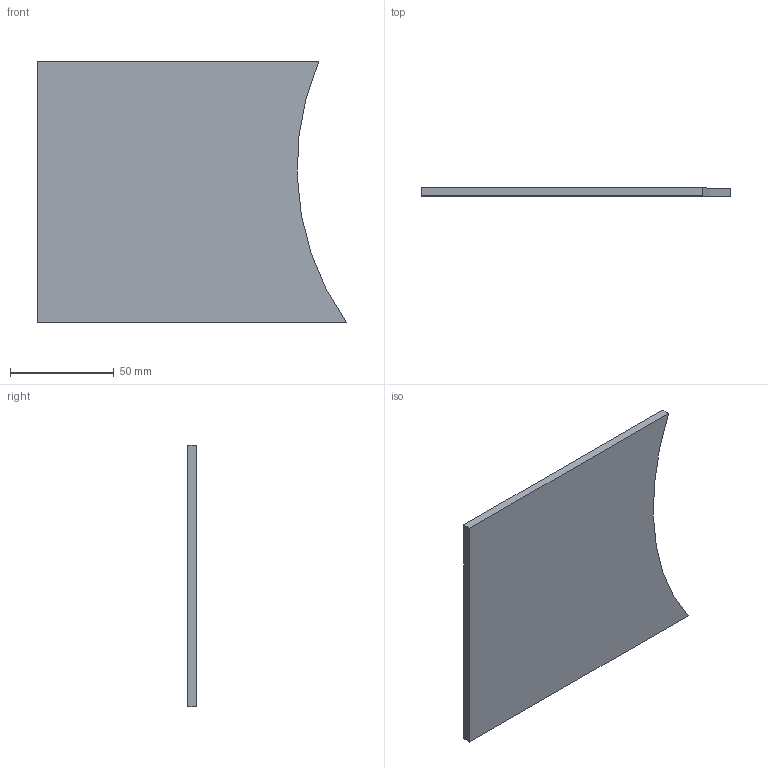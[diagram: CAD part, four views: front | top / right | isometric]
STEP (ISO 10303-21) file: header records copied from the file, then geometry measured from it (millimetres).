
FILE_DESCRIPTION(('Open CASCADE Model'),'2;1');
FILE_NAME('Open CASCADE Shape Model','2026-11-03T04:29:35',('Author'),( 'Open CASCADE'),'Open CASCADE STEP processor 7.8','Open CASCADE 7.8' ,'Unknown');
FILE_SCHEMA(('AUTOMOTIVE_DESIGN { 1 0 10303 214 1 1 1 1 }'));
Length unit declared in the file: millimetre
Products named in the file (1): Open CASCADE STEP translator 7.8 37
Bounding box: 148.82 x 4 x 126 mm (x, y, z)
Volume: 65983.8 mm3; surface area: 35162.3 mm2
Topology: 1 solids, 1 shells, 6 faces, 12 edges, 8 vertices
Faces by surface type: plane 5, cylinder 1
Entity records: 328 total; most frequent: CARTESIAN_POINT 65, DIRECTION 48, LINE 30, VECTOR 30, ORIENTED_EDGE 24, PCURVE 24, DEFINITIONAL_REPRESENTATION 24, EDGE_CURVE 12
